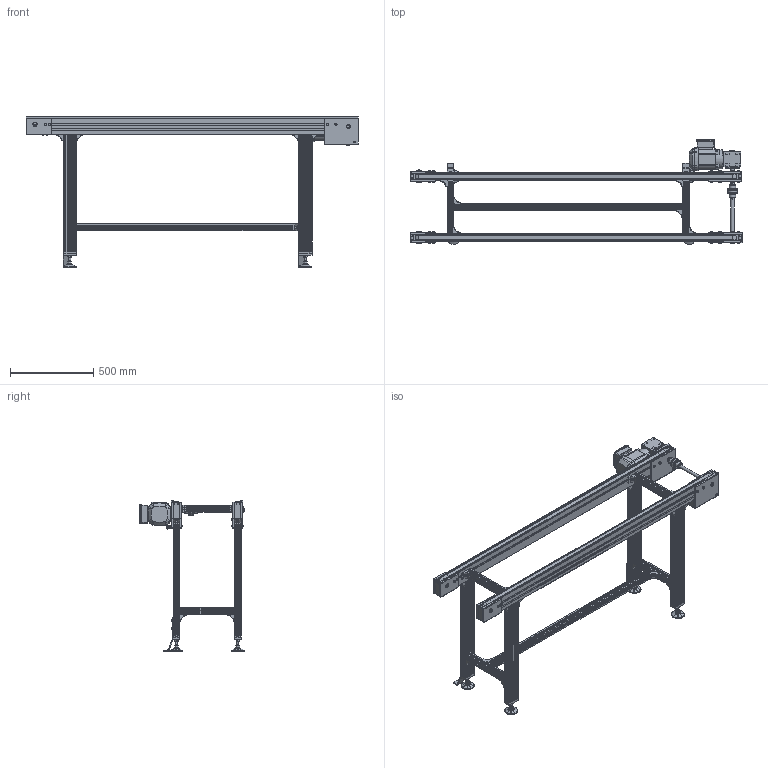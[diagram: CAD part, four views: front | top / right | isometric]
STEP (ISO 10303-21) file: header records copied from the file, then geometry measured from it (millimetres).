
FILE_DESCRIPTION(/* description */ (''),/* implementation_level */ '2;1');
FILE_NAME(/* name */ 'C:\Marketing\01_Versamove-SPU_STEP-Dateien-Homepage\VersamoveStandard\B400\STEP-Dateien\Zahnriemenförderer_ZRF-P-2045_B400_L2000.stp',/* time_stamp */ '2016-12-21T14:09:03+01:00',/* author */ ('herbert.engels'),/* organization */ (''),/* preprocessor_version */ 'ST-DEVELOPER v15.6',/* originating_system */ 'Autodesk Inventor 2015',/* authorisation */ '');
FILE_SCHEMA (('CONFIG_CONTROL_DESIGN'));
Products named in the file (1): Zahnriemenförderer_ZRF-P-2045_B400_L2000
Bounding box: 2000 x 630.57 x 905 mm (x, y, z)
Volume: 27220990.9 mm3; surface area: 6082481.4 mm2
Topology: 5 solids, 5 shells, 4979 faces, 13461 edges, 8695 vertices
Faces by surface type: plane 3122, cylinder 1304, cone 362, torus 125, sphere 50, bspline 16
Full cylindrical faces by diameter (mm): 2 x8, 6 x12, 6.647 x8, 7.323 x4, 8 x70, 8.7 x4, 9 x8, 10 x4, 10.066 x1, 11.4 x22, 12 x8, 13 x72, 13.6 x8, 14 x40, 15 x8, 18 x4, 19 x4, 19.77 x4, 20 x13, 25 x1, 25.05 x4, 28 x1, 30 x2, 40 x2, 53 x1, 54 x2, 56 x3, 79 x4, 117 x1
Entity records: 161163 total; most frequent: CARTESIAN_POINT 32038, ORIENTED_EDGE 25616, DIRECTION 25172, EDGE_CURVE 12807, LINE 8556, VECTOR 8556, VERTEX_POINT 8535, AXIS2_PLACEMENT_3D 8308
